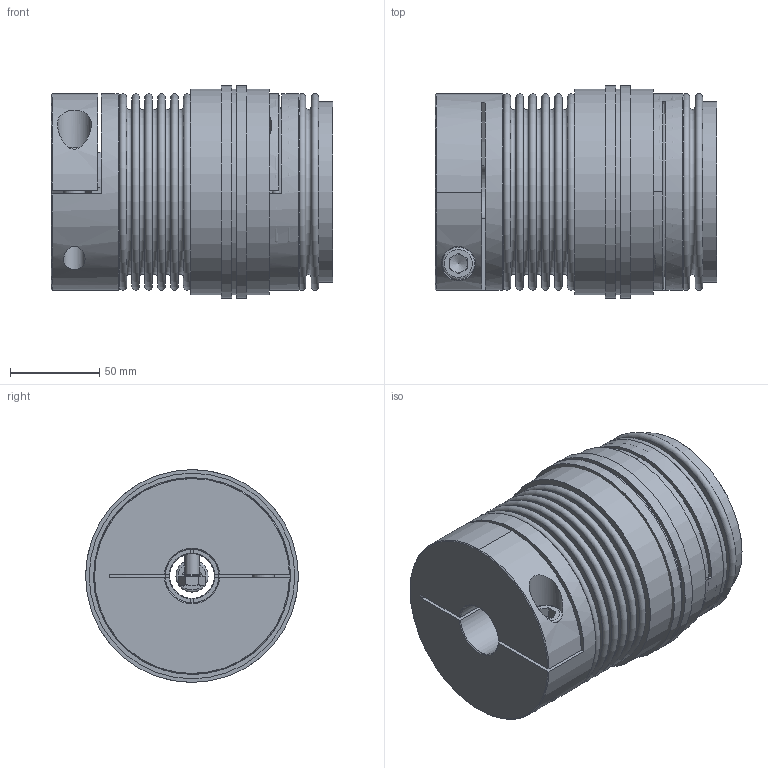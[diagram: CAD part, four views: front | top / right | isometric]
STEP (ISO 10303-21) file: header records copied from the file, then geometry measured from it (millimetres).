
FILE_DESCRIPTION( ( 'Unknown' ), '1' );
FILE_NAME( 'C:/Dokumente und Einstellungen/SKarpstein/Desktop/Korrigierte 3D Modelle/KBK-BKI-300-141.stp', 'Unknown', ( 'Unknown' ), ( 'Unknown' ), 'XStep 1.0', 'Unknown', ' ' );
FILE_SCHEMA( ( 'automotive_design' ) );
Length unit declared in the file: millimetre
Products named in the file (10): Assem1; Stellring 300_0; Druckring 300_0; Kupplung L-I-300 Grundkörper_0; Konusbuchse 300_0; din_en_24017_m8x30_0; Flansch BK300; BL300_Standard_0; KN300_Standard_2; Socket Head Cap Screw_DIN_DIN 912 M12 x 40 --- 40N_0
Bounding box: 157.57 x 119 x 119 mm (x, y, z)
Volume: 1464795.1 mm3; surface area: 510295.9 mm2
Topology: 23 solids, 23 shells, 548 faces, 1142 edges, 735 vertices
Faces by surface type: plane 257, cylinder 122, cone 110, torus 59
Full cylindrical faces by diameter (mm): 3.242 x6, 5.2 x6, 6.647 x18, 8 x7, 8.5 x12, 11.63 x7, 12 x4, 12.5 x2, 18 x2, 19 x2, 25 x4, 30 x2, 52 x4, 55 x4, 76 x6, 83.5 x2, 84 x2, 88 x2, 90 x2, 98 x2, 98.5 x2, 99.8 x4, 101 x4, 110 x2, 115 x4, 119 x2
Entity records: 6078 total; most frequent: CARTESIAN_POINT 1440, DIRECTION 969, ORIENTED_EDGE 650, AXIS2_PLACEMENT_3D 447, EDGE_LOOP 398, EDGE_CURVE 325, FACE_OUTER_BOUND 296, VERTEX_POINT 266
